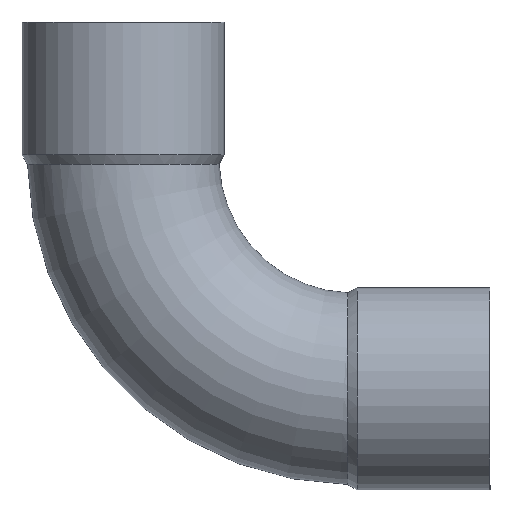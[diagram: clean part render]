
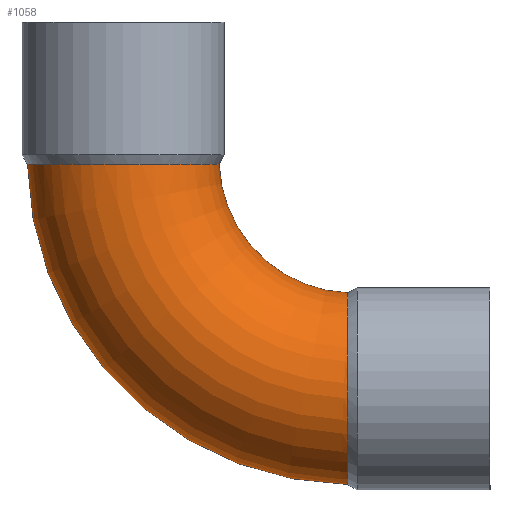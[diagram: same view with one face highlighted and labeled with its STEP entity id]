
A CAD part, front view. The second image highlights one B-rep face of the part: STEP entity #1058.
In plain terms, the highlighted toroidal (fillet/blend) face has major radius 42 mm and minor radius 17.5 mm.
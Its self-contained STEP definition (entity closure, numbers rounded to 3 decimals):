
#49=CARTESIAN_POINT('',(-37.456,0.,-1.015));
#50=VERTEX_POINT('',#49);
#51=CARTESIAN_POINT('',(21.02,0.,-59.491));
#52=VERTEX_POINT('',#51);
#53=CARTESIAN_POINT('',(22.035,0.,0.0));
#54=DIRECTION('',(0.0,-1.0,0.0));
#55=DIRECTION('',(0.0,0.0,-1.0));
#56=AXIS2_PLACEMENT_3D('',#53,#54,#55);
#57=CIRCLE('',#56,59.5);
#58=EDGE_CURVE('',#50,#52,#57,.T.);
#60=CARTESIAN_POINT('',(-2.446,0.,-0.967));
#61=VERTEX_POINT('',#60);
#85=CARTESIAN_POINT('',(21.068,0.,-24.481));
#86=VERTEX_POINT('',#85);
#87=CARTESIAN_POINT('',(22.035,0.,0.0));
#88=DIRECTION('',(0.0,1.0,0.0));
#89=DIRECTION('',(0.0,0.0,-1.0));
#90=AXIS2_PLACEMENT_3D('',#87,#88,#89);
#91=CIRCLE('',#90,24.5);
#92=EDGE_CURVE('',#86,#61,#91,.T.);
#224=CARTESIAN_POINT('',(-2.446,0.,-0.967));
#225=CARTESIAN_POINT('',(-2.446,-0.152,-0.967));
#226=CARTESIAN_POINT('',(-2.448,-0.305,-0.967));
#227=CARTESIAN_POINT('',(-2.511,-2.735,-0.967));
#228=CARTESIAN_POINT('',(-3.015,-4.979,-0.969));
#229=CARTESIAN_POINT('',(-4.856,-9.148,-0.974));
#230=CARTESIAN_POINT('',(-6.175,-11.034,-0.977));
#231=CARTESIAN_POINT('',(-9.462,-14.194,-0.984));
#232=CARTESIAN_POINT('',(-11.399,-15.438,-0.988));
#233=CARTESIAN_POINT('',(-15.641,-17.113,-0.995));
#234=CARTESIAN_POINT('',(-17.904,-17.529,-0.998));
#235=CARTESIAN_POINT('',(-22.463,-17.468,-1.003));
#236=CARTESIAN_POINT('',(-24.715,-16.993,-1.005));
#237=CARTESIAN_POINT('',(-28.909,-15.208,-1.009));
#238=CARTESIAN_POINT('',(-30.811,-13.914,-1.01));
#239=CARTESIAN_POINT('',(-34.013,-10.67,-1.013));
#240=CARTESIAN_POINT('',(-35.281,-8.751,-1.014));
#241=CARTESIAN_POINT('',(-37.011,-4.535,-1.015));
#242=CARTESIAN_POINT('',(-37.456,-2.278,-1.015));
#243=CARTESIAN_POINT('',(-37.456,0.,-1.015));
#244=B_SPLINE_CURVE_WITH_KNOTS('',3,(#224,#225,#226,#227,#228,#229,#230,#231,#232,#233,#234,#235,#236,#237,#238,#239,#240,#241,#242,#243),.UNSPECIFIED.,.F.,.U.,(4,2,2,2,2,2,2,2,2,4),(-5.516,-5.47,-4.787,-4.103,-3.419,-2.735,-2.051,-1.367,-0.684,0.0),.UNSPECIFIED.);
#245=EDGE_CURVE('',#61,#50,#244,.T.);
#1025=CARTESIAN_POINT('',(22.035,0.,0.0));
#1026=DIRECTION('',(0.0,-1.0,0.0));
#1027=DIRECTION('',(0.0,0.0,-1.0));
#1028=AXIS2_PLACEMENT_3D('',#1025,#1026,#1027);
#1029=TOROIDAL_SURFACE('',#1028,42.0,17.5);
#1030=ORIENTED_EDGE('',*,*,#58,.T.);
#1031=CARTESIAN_POINT('',(21.02,0.,-59.491));
#1032=CARTESIAN_POINT('',(21.02,-1.29,-59.491));
#1033=CARTESIAN_POINT('',(21.02,-2.576,-59.349));
#1034=CARTESIAN_POINT('',(21.021,-5.094,-58.783));
#1035=CARTESIAN_POINT('',(21.021,-6.317,-58.362));
#1036=CARTESIAN_POINT('',(21.022,-9.543,-56.836));
#1037=CARTESIAN_POINT('',(21.023,-11.393,-55.468));
#1038=CARTESIAN_POINT('',(21.025,-14.465,-52.1));
#1039=CARTESIAN_POINT('',(21.027,-15.657,-50.132));
#1040=CARTESIAN_POINT('',(21.031,-17.22,-45.849));
#1041=CARTESIAN_POINT('',(21.033,-17.576,-43.575));
#1042=CARTESIAN_POINT('',(21.039,-17.396,-39.019));
#1043=CARTESIAN_POINT('',(21.042,-16.862,-36.78));
#1044=CARTESIAN_POINT('',(21.049,-14.966,-32.633));
#1045=CARTESIAN_POINT('',(21.052,-13.622,-30.765));
#1046=CARTESIAN_POINT('',(21.059,-10.295,-27.649));
#1047=CARTESIAN_POINT('',(21.063,-8.344,-26.432));
#1048=CARTESIAN_POINT('',(21.067,-4.228,-24.867));
#1049=CARTESIAN_POINT('',(21.068,-2.122,-24.481));
#1050=CARTESIAN_POINT('',(21.068,0.,-24.481));
#1051=B_SPLINE_CURVE_WITH_KNOTS('',3,(#1031,#1032,#1033,#1034,#1035,#1036,#1037,#1038,#1039,#1040,#1041,#1042,#1043,#1044,#1045,#1046,#1047,#1048,#1049,#1050),.UNSPECIFIED.,.F.,.U.,(4,2,2,2,2,2,2,2,2,4),(-11.03,-10.643,-10.256,-9.572,-8.889,-8.205,-7.521,-6.837,-6.153,-5.516),.UNSPECIFIED.);
#1052=EDGE_CURVE('',#52,#86,#1051,.T.);
#1053=ORIENTED_EDGE('',*,*,#1052,.T.);
#1054=ORIENTED_EDGE('',*,*,#92,.T.);
#1055=ORIENTED_EDGE('',*,*,#245,.T.);
#1056=EDGE_LOOP('',(#1030,#1053,#1054,#1055));
#1057=FACE_OUTER_BOUND('',#1056,.T.);
#1058=ADVANCED_FACE('',(#1057),#1029,.T.);
